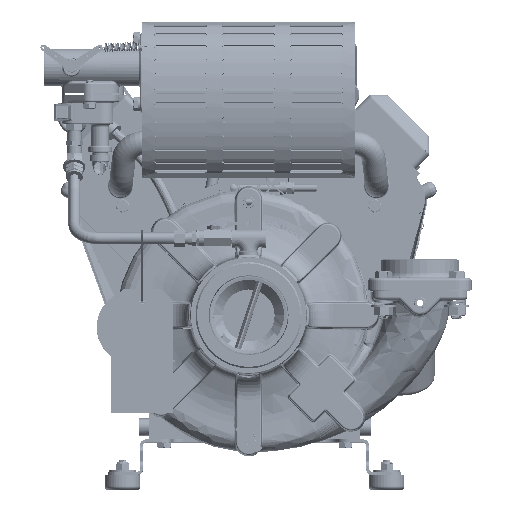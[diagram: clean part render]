
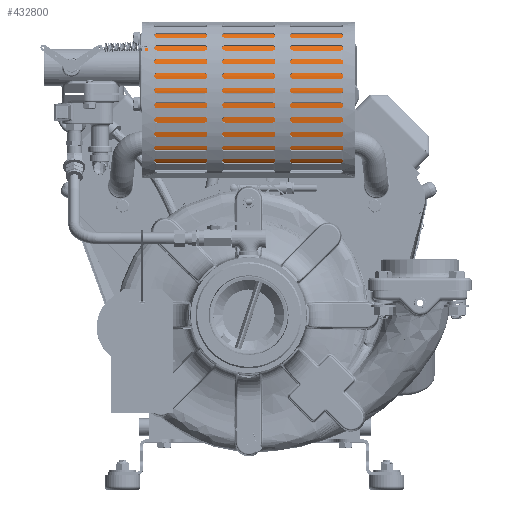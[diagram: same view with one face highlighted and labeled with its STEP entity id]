
A CAD part, top view. The second image highlights one B-rep face of the part: STEP entity #432800.
In plain terms, the highlighted free-form (B-spline) face has degree [3, 1] with [4, 2] control points.
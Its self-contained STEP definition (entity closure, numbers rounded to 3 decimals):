
#3252 = LINE ( 'NONE', #145599, #198037 ) ;
#4244 = EDGE_CURVE ( 'NONE', #398075, #309452, #3252, .T. ) ;
#8002 = CARTESIAN_POINT ( 'NONE',  ( -117.431, 328.498, 112.624 ) ) ;
#24717 = VERTEX_POINT ( 'NONE', #422712 ) ;
#34869 = CARTESIAN_POINT ( 'NONE',  ( 104.819, 328.498, 188.824 ) ) ;
#38382 = EDGE_CURVE ( 'NONE', #24717, #398075, #432961, .T. ) ;
#52473 = VECTOR ( 'NONE', #63536, 1000. ) ;
#63536 = DIRECTION ( 'NONE',  ( -1., 0., 0. ) ) ;
#68488 = ORIENTED_EDGE ( 'NONE', *, *, #307500, .T. ) ;
#70153 =( BOUNDED_CURVE ( )  B_SPLINE_CURVE ( 3, ( #435153, #162810, #241077, #8002 ),
 .UNSPECIFIED., .F., .F. ) 
 B_SPLINE_CURVE_WITH_KNOTS ( ( 4, 4 ),
 ( 3.142, 6.283 ),
 .UNSPECIFIED. ) 
 CURVE ( )  GEOMETRIC_REPRESENTATION_ITEM ( )  RATIONAL_B_SPLINE_CURVE ( ( 1., 0.333, 0.333, 1. ) ) 
 REPRESENTATION_ITEM ( '' )  );
#86853 = CARTESIAN_POINT ( 'NONE',  ( 104.819, 477.85, 112.624 ) ) ;
#90184 = CARTESIAN_POINT ( 'NONE',  ( 104.819, 477.85, 188.824 ) ) ;
#111444 = CARTESIAN_POINT ( 'NONE',  ( 104.819, 477.85, 112.624 ) ) ;
#119007 = EDGE_CURVE ( 'NONE', #24717, #136955, #271636, .T. ) ;
#129160 = CARTESIAN_POINT ( 'NONE',  ( 104.819, 328.498, 188.824 ) ) ;
#136955 = VERTEX_POINT ( 'NONE', #201101 ) ;
#138343 = CARTESIAN_POINT ( 'NONE',  ( 104.819, 477.85, 112.624 ) ) ;
#145599 = CARTESIAN_POINT ( 'NONE',  ( 104.819, 328.498, 112.624 ) ) ;
#159936 = CARTESIAN_POINT ( 'NONE',  ( 104.819, 328.498, 112.624 ) ) ;
#160507 =( BOUNDED_SURFACE ( )  B_SPLINE_SURFACE ( 3, 1, ( 
 ( #86853, #323201 ),
 ( #90184, #362382 ),
 ( #129160, #401588 ),
 ( #168358, #440669 ) ),
 .UNSPECIFIED., .F., .F., .F. ) 
 B_SPLINE_SURFACE_WITH_KNOTS ( ( 4, 4 ),
 ( 2, 2 ),
 ( 0., 1. ),
 ( 0., 1. ),
 .UNSPECIFIED. ) 
 GEOMETRIC_REPRESENTATION_ITEM ( )  RATIONAL_B_SPLINE_SURFACE ( (
 ( 1., 1.),
 ( 0.333, 0.333),
 ( 0.333, 0.333),
 ( 1., 1.) ) ) 
 REPRESENTATION_ITEM ( '' )  SURFACE ( )  );
#162810 = CARTESIAN_POINT ( 'NONE',  ( -117.431, 477.85, 188.824 ) ) ;
#168358 = CARTESIAN_POINT ( 'NONE',  ( 104.819, 328.498, 112.624 ) ) ;
#176653 = EDGE_LOOP ( 'NONE', ( #228659, #433505, #68488, #424883 ) ) ;
#177162 = CARTESIAN_POINT ( 'NONE',  ( -117.431, 328.498, 112.624 ) ) ;
#189522 = FACE_OUTER_BOUND ( 'NONE', #176653, .T. ) ;
#198037 = VECTOR ( 'NONE', #378851, 1000. ) ;
#201101 = CARTESIAN_POINT ( 'NONE',  ( -117.431, 477.85, 112.624 ) ) ;
#228659 = ORIENTED_EDGE ( 'NONE', *, *, #38382, .F. ) ;
#241077 = CARTESIAN_POINT ( 'NONE',  ( -117.431, 328.498, 188.824 ) ) ;
#271636 = LINE ( 'NONE', #138343, #52473 ) ;
#307036 = CARTESIAN_POINT ( 'NONE',  ( 104.819, 328.498, 112.624 ) ) ;
#307500 = EDGE_CURVE ( 'NONE', #136955, #309452, #70153, .T. ) ;
#309452 = VERTEX_POINT ( 'NONE', #177162 ) ;
#323201 = CARTESIAN_POINT ( 'NONE',  ( -117.431, 477.85, 112.624 ) ) ;
#344592 = CARTESIAN_POINT ( 'NONE',  ( 104.819, 477.85, 188.824 ) ) ;
#362382 = CARTESIAN_POINT ( 'NONE',  ( -117.431, 477.85, 188.824 ) ) ;
#378851 = DIRECTION ( 'NONE',  ( -1., 0., 0. ) ) ;
#398075 = VERTEX_POINT ( 'NONE', #159936 ) ;
#401588 = CARTESIAN_POINT ( 'NONE',  ( -117.431, 328.498, 188.824 ) ) ;
#422712 = CARTESIAN_POINT ( 'NONE',  ( 104.819, 477.85, 112.624 ) ) ;
#424883 = ORIENTED_EDGE ( 'NONE', *, *, #4244, .F. ) ;
#432800 = ADVANCED_FACE ( 'NONE', ( #189522 ), #160507, .F. ) ;
#432961 =( BOUNDED_CURVE ( )  B_SPLINE_CURVE ( 3, ( #111444, #344592, #34869, #307036 ),
 .UNSPECIFIED., .F., .F. ) 
 B_SPLINE_CURVE_WITH_KNOTS ( ( 4, 4 ),
 ( 3.142, 6.283 ),
 .UNSPECIFIED. ) 
 CURVE ( )  GEOMETRIC_REPRESENTATION_ITEM ( )  RATIONAL_B_SPLINE_CURVE ( ( 1., 0.333, 0.333, 1. ) ) 
 REPRESENTATION_ITEM ( '' )  );
#433505 = ORIENTED_EDGE ( 'NONE', *, *, #119007, .T. ) ;
#435153 = CARTESIAN_POINT ( 'NONE',  ( -117.431, 477.85, 112.624 ) ) ;
#440669 = CARTESIAN_POINT ( 'NONE',  ( -117.431, 328.498, 112.624 ) ) ;
